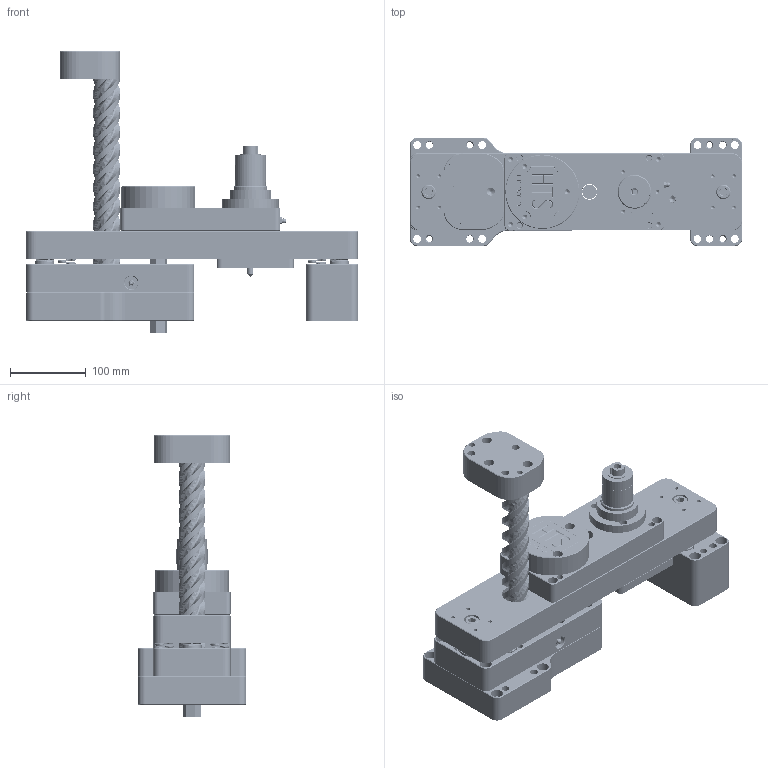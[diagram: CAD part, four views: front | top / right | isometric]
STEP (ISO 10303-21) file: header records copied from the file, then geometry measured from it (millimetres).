
FILE_DESCRIPTION(/* description */ ('Unknown'),/* implementation_level */ '2;1');
FILE_NAME(/* name */ '6100-7instrk',/* time_stamp */ '2018-07-30T07:54:22-04:00',/* author */ ('Unknown'),/* organization */ ('Unknown'),/* preprocessor_version */ 'ST-DEVELOPER v16.7',/* originating_system */ 'DEX',/* authorisation */ $);
FILE_SCHEMA (('AUTOMOTIVE_DESIGN {1 0 10303 214 3 1 1}'));
Products named in the file (28): 6100-000 NEW STD; Tap 5_16-18; 6022-5_16-18; 6020-018; 6025-000; 6119-000; 6107A-000C; 6147-005; 6107B-000C; 6136-M8.0F; 6137A-000-2pstd; 6017-000; 6138-300; BASE-GK95-L_BASE-GK95-L2-E; 6011-007FA; 3_8-16X750_SHCS; 1_2-13X1-1_2 SHCS; 6129-200; RETAININGRING-EXTERNAL-STANDARD; BUSHING-BU-1_0ID-2_0LONG_BUSHIN; 6107C-000-std; 6106B-000-std; 6106A-000-std; 6008-000; 6121-000; 6109-000; 6118A-000; 6012-000
Assembly tree (43 placements, depth 2):
  6100-000 NEW STD
    Tap 5_16-18
    6022-5_16-18
    6020-018
    6025-000
    6119-000
    6107A-000C
    6147-005
    6107B-000C
    6136-M8.0F
    6137A-000-2pstd
    6017-000  x2
    6138-300  x2
    BASE-GK95-L_BASE-GK95-L2-E  x2
    6011-007FA
    3_8-16X750_SHCS  x8
    1_2-13X1-1_2 SHCS  x2
    6129-200  x4
    RETAININGRING-EXTERNAL-STANDARD  x2
    BUSHING-BU-1_0ID-2_0LONG_BUSHIN  x2
    6107C-000-std
    6106B-000-std
    6106A-000-std
    6008-000
    6121-000
    6109-000
    6118A-000
    6012-000
Bounding box: 437.99 x 142.89 x 371.51 mm (x, y, z)
Volume: 5198922.3 mm3; surface area: 883809.5 mm2
Topology: 43 solids, 43 shells, 1480 faces, 4535 edges, 3264 vertices
Faces by surface type: plane 606, cylinder 466, cone 268, bspline 90, torus 46, sphere 4
Full cylindrical faces by diameter (mm): 1.587 x4, 1.981 x4, 4.039 x1, 4.976 x16, 5.004 x1, 5.105 x6, 5.156 x18, 5.954 x2, 6.35 x7, 6.528 x14, 6.805 x3, 7.142 x6, 7.144 x3, 7.541 x2, 7.805 x4, 7.925 x2, 7.938 x36, 8.077 x1, 8.731 x3, 8.733 x8, 8.738 x1, 9.058 x1, 9.525 x4, 9.906 x1, 10.312 x8, 10.317 x22, 10.584 x2, 10.716 x2, 10.719 x2, 11.113 x7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
Entity records: 78893 total; most frequent: CARTESIAN_POINT 47116, DIRECTION 4872, ORIENTED_EDGE 4674, EDGE_CURVE 2337, AXIS2_PLACEMENT_3D 1991, FACE_BOUND 1845, EDGE_LOOP 1814, VERTEX_POINT 1790
